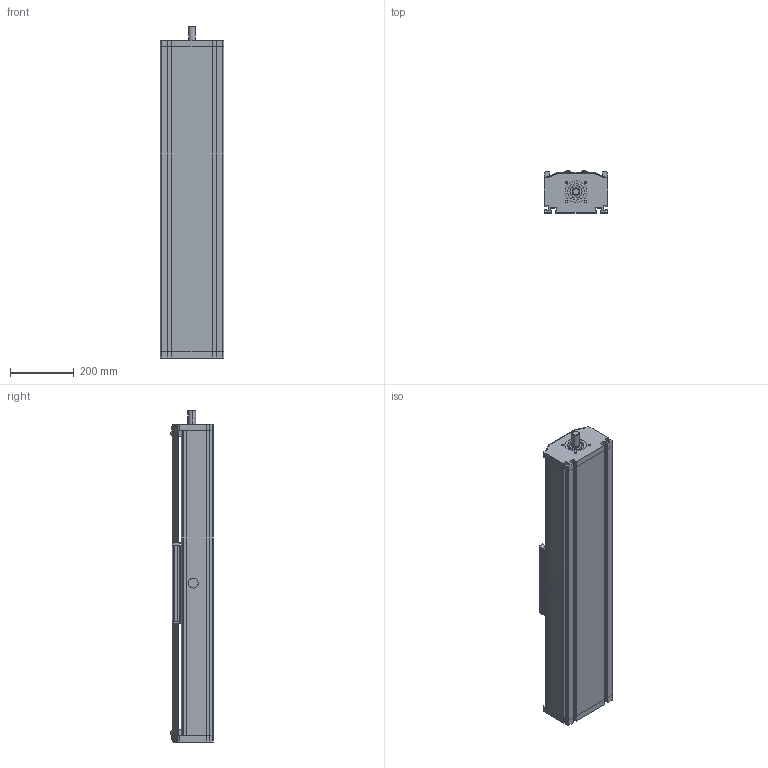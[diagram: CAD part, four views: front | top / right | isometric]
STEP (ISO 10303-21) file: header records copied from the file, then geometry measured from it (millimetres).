
FILE_DESCRIPTION (( 'STEP AP214' ), '1' );
FILE_NAME ('DLT(K) 200P.STEP', '2022-06-29T10:21:23', ( '' ), ( '' ), 'SwSTEP 2.0', 'SolidWorks 2020', '' );
FILE_SCHEMA (( 'AUTOMOTIVE_DESIGN' ));
Length unit declared in the file: millimetre
Products named in the file (5): carriage^DLT(K) 200P_carriage version 0; profile^DLT(K) 200P_standard; DLT(K) 200P; bearing block^DLT(K) 200P_cap; bearing block^DLT(K) 200P_shaft
Assembly tree (4 placements, depth 2):
  DLT(K) 200P
    profile^DLT(K) 200P_standard
    carriage^DLT(K) 200P_carriage version 0
    bearing block^DLT(K) 200P_shaft
    bearing block^DLT(K) 200P_cap
Bounding box: 200 x 132.4 x 1045 mm (x, y, z)
Volume: 10613837.1 mm3; surface area: 1906063.3 mm2
Topology: 8 solids, 9 shells, 509 faces, 1399 edges, 920 vertices
Faces by surface type: plane 308, cylinder 163, cone 22, bspline 16
Entity records: 19517 total; most frequent: CARTESIAN_POINT 5552, ORIENTED_EDGE 2782, DIRECTION 2563, EDGE_CURVE 1391, LINE 977, VECTOR 977, VERTEX_POINT 920, AXIS2_PLACEMENT_3D 793
